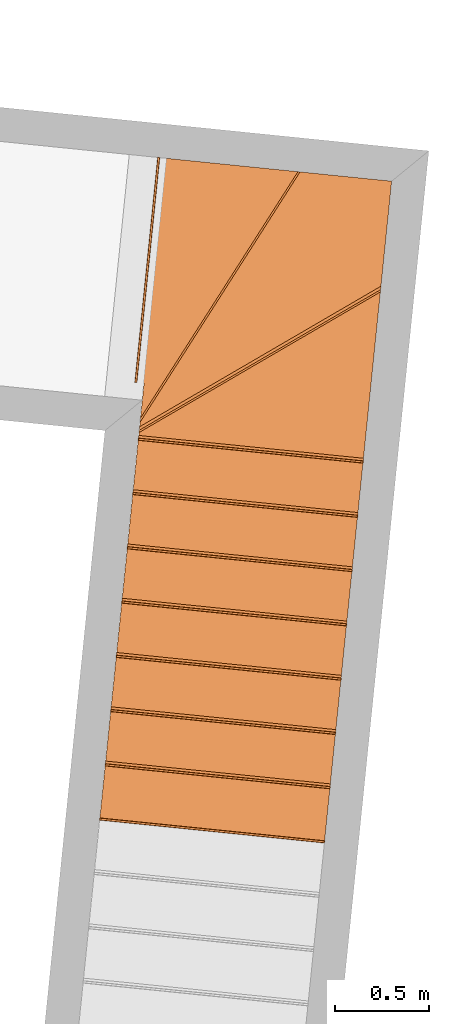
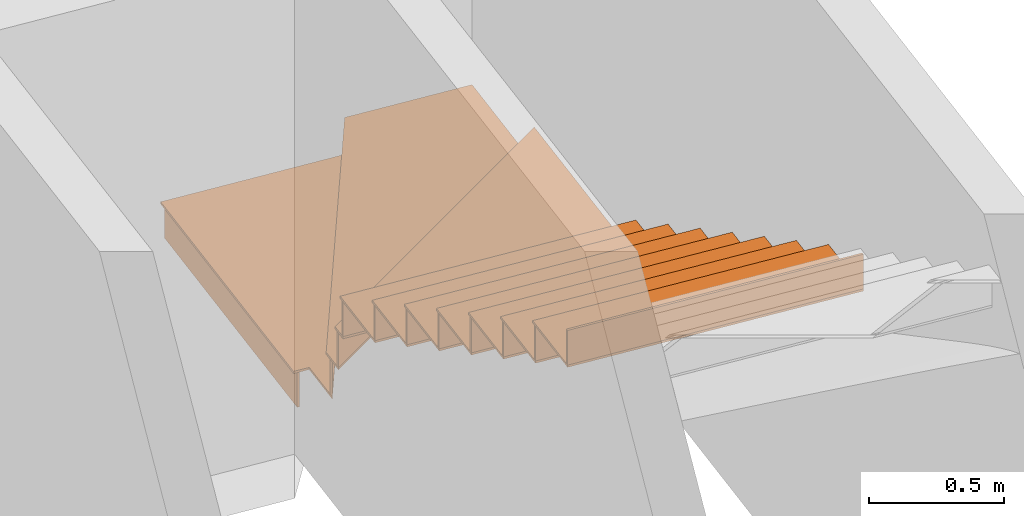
# One storey, part 41 of 41: 21 proxies, 1 element without a shape of its own.
"""IFC2X3 building model written with IfcOpenShell, lengths in millimetres."""

from ifc_helpers import new_model, entity, si_unit, converted_unit, derived_unit, money_unit, direction, frame, origin_with_axes, place, context, subcontext, project, spatial, faceted_brep, material, type_object, element, aggregate, save


model = new_model("IFC2X3")

# Units and contexts
model_context = context("Model", 3, precision=0.01, world=origin_with_axes(), true_north=direction((0.0, 1.0)))
body_context = subcontext(model_context, "Body", "Model", "MODEL_VIEW")
ifc_project = project(units=[si_unit("LENGTHUNIT", "METRE", prefix="MILLI"), si_unit("AREAUNIT", "SQUARE_METRE"), si_unit("VOLUMEUNIT", "CUBIC_METRE"), converted_unit("PLANEANGLEUNIT", "DEGREE", entity("IfcPlaneAngleMeasure", 0.0174532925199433), si_unit("PLANEANGLEUNIT", "RADIAN"), dimensions=[0, 0, 0, 0, 0, 0, 0]), money_unit("USD"), converted_unit("TIMEUNIT", "Year", entity("IfcTimeMeasure", 31557600.0), si_unit("TIMEUNIT", "SECOND"), dimensions=[0, 0, 1, 0, 0, 0, 0]), si_unit("MASSUNIT", "GRAM", prefix="KILO"), si_unit("THERMODYNAMICTEMPERATUREUNIT", "DEGREE_CELSIUS"), si_unit("LUMINOUSINTENSITYUNIT", "LUMEN"), si_unit("ENERGYUNIT", "JOULE", prefix="MEGA"), derived_unit("THERMALCONDUCTANCEUNIT", [(si_unit("POWERUNIT", "WATT"), 1), (si_unit("LENGTHUNIT", "METRE"), -1), (si_unit("THERMODYNAMICTEMPERATUREUNIT", "KELVIN"), -1)]), derived_unit("SPECIFICHEATCAPACITYUNIT", [(si_unit("ENERGYUNIT", "JOULE"), 1), (si_unit("MASSUNIT", "GRAM", prefix="KILO"), -1), (si_unit("THERMODYNAMICTEMPERATUREUNIT", "KELVIN"), -1)]), derived_unit("MASSDENSITYUNIT", [(si_unit("MASSUNIT", "GRAM", prefix="KILO"), 1), (si_unit("VOLUMEUNIT", "CUBIC_METRE"), -1)])], contexts=[model_context])

# Site, building, storey
site_placement = place(None, origin_with_axes())
site = spatial("IfcSite", under=ifc_project, at=site_placement, Name="Site", CompositionType="ELEMENT")
building_placement = place(site_placement, origin_with_axes())
building = spatial("IfcBuilding", under=site, at=building_placement, Name="Bâtiment", CompositionType="ELEMENT")
storey_placement = place(building_placement, origin_with_axes())
storey = spatial("IfcBuildingStorey", under=building, at=storey_placement, Name="sousol", CompositionType="ELEMENT", Elevation=0.0)

# Stair, proxies
stair_placement = place(storey_placement, frame((2249189.521225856, -619471.9295065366, 0.0), z_axis=(0.0, 0.0, 1.0), x_axis=(0.9948759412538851, -0.1011032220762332, 0.0)))
stair = element("IfcStair", 1, at=stair_placement, inside=storey, Name="ESC-014", ShapeType="NOTDEFINED")
ifc_material = material(Name="Lame d'air 275581351")
building_element_proxy_type = type_object("IfcBuildingElementProxyType", Name="IfcBuildingElementProxy", PredefinedType="NOTDEFINED")
proxy_1_placement = place(stair_placement, frame((58.36308295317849, 1254.652024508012, 156.6666666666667), z_axis=(0.0, 0.0, 1.0), x_axis=(0.0, -1.0, 0.0)))
proxy_1 = element("IfcBuildingElementProxy", 2, at=proxy_1_placement, type_object=building_element_proxy_type, material=ifc_material, Name="C-MARCHE-224", context=body_context, shape_type="Brep", body=[
    faceted_brep([(334.9999999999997, 15.00000000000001, 0.0), (334.9999999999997, 25.00000000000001, 0.0), (-865.0000000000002, 24.99999999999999, 0.0), (-865.0000000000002, 14.99999999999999, 0.0), (334.9999999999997, 15.00000000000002, -156.6666666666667), (334.9999999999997, 25.00000000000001, -156.6666666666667), (-865.0000000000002, 25.0, -156.6666666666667), (-865.0000000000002, 15.0, -156.6666666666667)], [[[0, 1, 2, 3]], [[0, 4, 5, 1]], [[1, 5, 6, 2]], [[3, 2, 6, 7]], [[4, 0, 3, 7]], [[5, 4, 7, 6]]]),
])
proxy_2_placement = place(stair_placement, frame((331.3349740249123, 1181.206810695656, 323.3333333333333), z_axis=(0.0, 0.0, 1.0), x_axis=(-0.4505176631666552, -0.8927675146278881, 0.0)))
proxy_2 = element("IfcBuildingElementProxy", 3, at=proxy_2_placement, type_object=building_element_proxy_type, material=ifc_material, Name="C-MARCHE-225", context=body_context, shape_type="Brep", body=[
    faceted_brep([(494.3417207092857, 14.9999999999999, 0.0), (514.1582026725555, 24.9999999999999, 0.0), (-1063.779920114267, 24.99999999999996, 0.0), (-1058.733615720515, 14.99999999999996, 0.0), (494.3417207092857, 14.99999999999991, -156.6666666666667), (514.1582026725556, 24.99999999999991, -156.6666666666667), (-1063.779920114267, 24.99999999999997, -156.6666666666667), (-1058.733615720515, 14.99999999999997, -156.6666666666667)], [[[0, 1, 2, 3]], [[0, 4, 5, 1]], [[1, 5, 6, 2]], [[3, 2, 6, 7]], [[4, 0, 3, 7]], [[5, 4, 7, 6]]]),
])
proxy_3_placement = place(stair_placement, frame((456.8563038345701, 930.0208874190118, 490.0), z_axis=(0.0, 0.0, 1.0), x_axis=(-0.8087987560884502, -0.5880855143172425, 0.0)))
proxy_3 = element("IfcBuildingElementProxy", 4, at=proxy_3_placement, type_object=building_element_proxy_type, material=ifc_material, Name="C-MARCHE-226", context=body_context, shape_type="Brep", body=[
    faceted_brep([(424.9027017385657, 14.99999999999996, 0.0), (432.1737998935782, 24.99999999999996, 0.0), (-1051.50800718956, 24.99999999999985, 0.0), (-1058.779105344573, 14.99999999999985, 0.0), (424.9027017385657, 14.99999999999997, -156.6666666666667), (432.1737998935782, 24.99999999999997, -156.6666666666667), (-1051.50800718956, 24.99999999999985, -156.6666666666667), (-1058.779105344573, 14.99999999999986, -156.6666666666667)], [[[0, 1, 2, 3]], [[0, 4, 5, 1]], [[1, 5, 6, 2]], [[3, 2, 6, 7]], [[4, 0, 3, 7]], [[5, 4, 7, 6]]]),
])
proxy_4_placement = place(stair_placement, frame((457.0168099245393, 640.2725551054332, 656.6666666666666), z_axis=(0.0, 0.0, 1.0), x_axis=(-1.0, 0.0, 0.0)))
proxy_4 = element("IfcBuildingElementProxy", 5, at=proxy_4_placement, type_object=building_element_proxy_type, material=ifc_material, Name="C-MARCHE-227", context=body_context, shape_type="Brep", body=[
    faceted_brep([(334.9999999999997, 15.00000000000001, 0.0), (334.9999999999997, 25.00000000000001, 0.0), (-865.0000000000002, 24.99999999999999, 0.0), (-865.0000000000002, 14.99999999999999, 0.0), (334.9999999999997, 15.00000000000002, -156.6666666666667), (334.9999999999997, 25.00000000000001, -156.6666666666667), (-865.0000000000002, 25.0, -156.6666666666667), (-865.0000000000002, 15.0, -156.6666666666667)], [[[0, 1, 2, 3]], [[0, 4, 5, 1]], [[1, 5, 6, 2]], [[3, 2, 6, 7]], [[4, 0, 3, 7]], [[5, 4, 7, 6]]]),
])
proxy_5_placement = place(stair_placement, frame((457.016809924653, 350.5225664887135, 823.3333333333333), z_axis=(0.0, 0.0, 1.0), x_axis=(-1.0, 0.0, 0.0)))
proxy_5 = element("IfcBuildingElementProxy", 6, at=proxy_5_placement, type_object=building_element_proxy_type, material=ifc_material, Name="C-MARCHE-228", context=body_context, shape_type="Brep", body=[
    faceted_brep([(334.9999999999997, 15.00000000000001, 0.0), (334.9999999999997, 25.00000000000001, 0.0), (-865.0000000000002, 24.99999999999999, 0.0), (-865.0000000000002, 14.99999999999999, 0.0), (334.9999999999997, 15.00000000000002, -156.6666666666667), (334.9999999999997, 25.00000000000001, -156.6666666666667), (-865.0000000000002, 25.0, -156.6666666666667), (-865.0000000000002, 15.0, -156.6666666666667)], [[[0, 1, 2, 3]], [[0, 4, 5, 1]], [[1, 5, 6, 2]], [[3, 2, 6, 7]], [[4, 0, 3, 7]], [[5, 4, 7, 6]]]),
])
proxy_6_placement = place(stair_placement, frame((457.016809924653, 60.77257787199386, 990.0), z_axis=(0.0, 0.0, 1.0), x_axis=(-1.0, 0.0, 0.0)))
proxy_6 = element("IfcBuildingElementProxy", 7, at=proxy_6_placement, type_object=building_element_proxy_type, material=ifc_material, Name="C-MARCHE-229", context=body_context, shape_type="Brep", body=[
    faceted_brep([(334.9999999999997, 15.00000000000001, 0.0), (334.9999999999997, 25.00000000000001, 0.0), (-865.0000000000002, 24.99999999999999, 0.0), (-865.0000000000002, 14.99999999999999, 0.0), (334.9999999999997, 15.00000000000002, -156.6666666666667), (334.9999999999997, 25.00000000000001, -156.6666666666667), (-865.0000000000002, 25.0, -156.6666666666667), (-865.0000000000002, 15.0, -156.6666666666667)], [[[0, 1, 2, 3]], [[0, 4, 5, 1]], [[1, 5, 6, 2]], [[3, 2, 6, 7]], [[4, 0, 3, 7]], [[5, 4, 7, 6]]]),
])
proxy_7_placement = place(stair_placement, frame((457.016809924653, -228.9774107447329, 1156.666666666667), z_axis=(0.0, 0.0, 1.0), x_axis=(-1.0, 0.0, 0.0)))
proxy_7 = element("IfcBuildingElementProxy", 8, at=proxy_7_placement, type_object=building_element_proxy_type, material=ifc_material, Name="C-MARCHE-230", context=body_context, shape_type="Brep", body=[
    faceted_brep([(334.9999999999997, 15.00000000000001, 0.0), (334.9999999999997, 25.00000000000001, 0.0), (-865.0000000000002, 24.99999999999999, 0.0), (-865.0000000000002, 14.99999999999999, 0.0), (334.9999999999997, 15.00000000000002, -156.6666666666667), (334.9999999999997, 25.00000000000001, -156.6666666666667), (-865.0000000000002, 25.0, -156.6666666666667), (-865.0000000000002, 15.0, -156.6666666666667)], [[[0, 1, 2, 3]], [[0, 4, 5, 1]], [[1, 5, 6, 2]], [[3, 2, 6, 7]], [[4, 0, 3, 7]], [[5, 4, 7, 6]]]),
])
proxy_8_placement = place(stair_placement, frame((457.016809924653, -518.7273993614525, 1323.333333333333), z_axis=(0.0, 0.0, 1.0), x_axis=(-1.0, 0.0, 0.0)))
proxy_8 = element("IfcBuildingElementProxy", 9, at=proxy_8_placement, type_object=building_element_proxy_type, material=ifc_material, Name="C-MARCHE-231", context=body_context, shape_type="Brep", body=[
    faceted_brep([(334.9999999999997, 15.00000000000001, 0.0), (334.9999999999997, 25.00000000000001, 0.0), (-865.0000000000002, 24.99999999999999, 0.0), (-865.0000000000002, 14.99999999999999, 0.0), (334.9999999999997, 15.00000000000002, -156.6666666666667), (334.9999999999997, 25.00000000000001, -156.6666666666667), (-865.0000000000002, 25.0, -156.6666666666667), (-865.0000000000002, 15.0, -156.6666666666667)], [[[0, 1, 2, 3]], [[0, 4, 5, 1]], [[1, 5, 6, 2]], [[3, 2, 6, 7]], [[4, 0, 3, 7]], [[5, 4, 7, 6]]]),
])
proxy_9_placement = place(stair_placement, frame((457.016809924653, -808.4773879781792, 1490.0), z_axis=(0.0, 0.0, 1.0), x_axis=(-1.0, 0.0, 0.0)))
proxy_9 = element("IfcBuildingElementProxy", 10, at=proxy_9_placement, type_object=building_element_proxy_type, material=ifc_material, Name="C-MARCHE-232", context=body_context, shape_type="Brep", body=[
    faceted_brep([(334.9999999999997, 15.00000000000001, 0.0), (334.9999999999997, 25.00000000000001, 0.0), (-865.0000000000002, 24.99999999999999, 0.0), (-865.0000000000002, 14.99999999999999, 0.0), (334.9999999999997, 15.00000000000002, -156.6666666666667), (334.9999999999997, 25.00000000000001, -156.6666666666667), (-865.0000000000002, 25.0, -156.6666666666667), (-865.0000000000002, 15.0, -156.6666666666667)], [[[0, 1, 2, 3]], [[0, 4, 5, 1]], [[1, 5, 6, 2]], [[3, 2, 6, 7]], [[4, 0, 3, 7]], [[5, 4, 7, 6]]]),
])
proxy_10_placement = place(stair_placement, frame((457.016809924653, -1098.227376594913, 1656.666666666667), z_axis=(0.0, 0.0, 1.0), x_axis=(-1.0, 0.0, 0.0)))
proxy_10 = element("IfcBuildingElementProxy", 11, at=proxy_10_placement, type_object=building_element_proxy_type, material=ifc_material, Name="C-MARCHE-233", context=body_context, shape_type="Brep", body=[
    faceted_brep([(334.9999999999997, 15.00000000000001, 0.0), (334.9999999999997, 25.00000000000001, 0.0), (-865.0000000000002, 24.99999999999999, 0.0), (-865.0000000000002, 14.99999999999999, 0.0), (334.9999999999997, 15.00000000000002, -156.6666666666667), (334.9999999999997, 25.00000000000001, -156.6666666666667), (-865.0000000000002, 25.0, -156.6666666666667), (-865.0000000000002, 15.0, -156.6666666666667)], [[[0, 1, 2, 3]], [[0, 4, 5, 1]], [[1, 5, 6, 2]], [[3, 2, 6, 7]], [[4, 0, 3, 7]], [[5, 4, 7, 6]]]),
])
proxy_11_placement = place(stair_placement, frame((457.016809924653, -1387.977365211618, 1823.333333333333), z_axis=(0.0, 0.0, 1.0), x_axis=(-1.0, 0.0, 0.0)))
proxy_11 = element("IfcBuildingElementProxy", 12, at=proxy_11_placement, type_object=building_element_proxy_type, material=ifc_material, Name="C-MARCHE-234", context=body_context, shape_type="Brep", body=[
    faceted_brep([(334.9999999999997, 15.00000000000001, 0.0), (334.9999999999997, 25.00000000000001, 0.0), (-865.0000000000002, 24.99999999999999, 0.0), (-865.0000000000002, 14.99999999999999, 0.0), (334.9999999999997, 15.00000000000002, -156.6666666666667), (334.9999999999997, 25.00000000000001, -156.6666666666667), (-865.0000000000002, 25.0, -156.6666666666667), (-865.0000000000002, 15.0, -156.6666666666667)], [[[0, 1, 2, 3]], [[0, 4, 5, 1]], [[1, 5, 6, 2]], [[3, 2, 6, 7]], [[4, 0, 3, 7]], [[5, 4, 7, 6]]]),
])
proxy_12_placement = place(stair_placement, frame((58.36308295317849, 1254.652024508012, 166.6666666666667), z_axis=(0.0, 0.0, 1.0), x_axis=(0.0, -1.0, 0.0)))
proxy_12 = element("IfcBuildingElementProxy", 13, at=proxy_12_placement, type_object=building_element_proxy_type, material=ifc_material, Name="MARCHE-224", context=body_context, shape_type="Brep", body=[
    faceted_brep([(-865.0000000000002, 0.0, -10.0), (334.9999999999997, 0.0, -10.0), (334.9999999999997, 0.0, 0.0), (-865.0000000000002, 0.0, 0.0), (-865.0000000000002, 774.5427318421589, -10.0), (543.7319034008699, 63.65372697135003, -10.0), (334.9999999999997, 63.65372697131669, -10.0), (334.9999999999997, 63.65372697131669, 0.0), (543.7319034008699, 63.65372697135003, 0.0), (-865.0000000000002, 774.5427318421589, 0.0)], [[[0, 1, 2, 3]], [[0, 4, 5, 6, 1]], [[1, 6, 7, 2]], [[3, 2, 7, 8, 9]], [[4, 0, 3, 9]], [[5, 4, 9, 8]], [[6, 5, 8, 7]]]),
])
proxy_13_placement = place(stair_placement, frame((331.3349740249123, 1181.206810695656, 333.3333333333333), z_axis=(0.0, 0.0, 1.0), x_axis=(-0.4505176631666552, -0.8927675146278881, 0.0)))
proxy_13 = element("IfcBuildingElementProxy", 14, at=proxy_13_placement, type_object=building_element_proxy_type, material=ifc_material, Name="MARCHE-225", context=body_context, shape_type="Brep", body=[
    faceted_brep([(-1051.164159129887, 0.0, -10.0), (464.6169977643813, 0.0, -10.0), (464.6169977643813, 0.0, 0.0), (-1051.164159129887, 0.0, 0.0), (-1284.133066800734, 461.6624156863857, -10.0), (-756.0838736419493, 728.1321120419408, -10.0), (563.5053567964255, 49.90207606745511, -10.0), (563.5053567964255, 49.90207606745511, 0.0), (-756.0838736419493, 728.1321120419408, 0.0), (-1284.133066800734, 461.6624156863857, 0.0)], [[[0, 1, 2, 3]], [[0, 4, 5, 6, 1]], [[1, 6, 7, 2]], [[3, 2, 7, 8, 9]], [[4, 0, 3, 9]], [[5, 4, 9, 8]], [[6, 5, 8, 7]]]),
])
proxy_14_placement = place(stair_placement, frame((456.8563038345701, 930.0208874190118, 500.0), z_axis=(0.0, 0.0, 1.0), x_axis=(-0.8087987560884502, -0.5880855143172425, 0.0)))
proxy_14 = element("IfcBuildingElementProxy", 15, at=proxy_14_placement, type_object=building_element_proxy_type, material=ifc_material, Name="MARCHE-226", context=body_context, shape_type="Brep", body=[
    faceted_brep([(-1069.685752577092, 0.0, -10.0), (413.996054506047, 0.0, -10.0), (413.996054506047, 0.0, 0.0), (-1069.685752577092, 0.0, 0.0), (-514.641806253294, 763.3564208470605, -10.0), (455.9167010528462, 57.65380366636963, -10.0), (455.9167010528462, 57.65380366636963, 0.0), (-514.641806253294, 763.3564208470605, 0.0)], [[[0, 1, 2, 3]], [[0, 4, 5, 1]], [[1, 5, 6, 2]], [[3, 2, 6, 7]], [[4, 0, 3, 7]], [[5, 4, 7, 6]]]),
])
proxy_15_placement = place(stair_placement, frame((457.0168099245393, 640.2725551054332, 666.6666666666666), z_axis=(0.0, 0.0, 1.0), x_axis=(-1.0, 0.0, 0.0)))
proxy_15 = element("IfcBuildingElementProxy", 16, at=proxy_15_placement, type_object=building_element_proxy_type, material=ifc_material, Name="MARCHE-227", context=body_context, shape_type="Brep", body=[
    faceted_brep([(-865.0, 0.0, -10.0), (334.9999999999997, 0.0, -10.0), (334.9999999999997, 0.0, 0.0), (-865.0, 0.0, 0.0), (-865.0000000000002, 314.7499886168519, -10.0), (334.9999999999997, 314.7499886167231, -10.0), (334.9999999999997, 314.7499886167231, 0.0), (-865.0000000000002, 314.7499886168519, 0.0)], [[[0, 1, 2, 3]], [[0, 4, 5, 1]], [[1, 5, 6, 2]], [[3, 2, 6, 7]], [[4, 0, 3, 7]], [[5, 4, 7, 6]]]),
])
proxy_16_placement = place(stair_placement, frame((457.016809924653, 350.5225664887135, 833.3333333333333), z_axis=(0.0, 0.0, 1.0), x_axis=(-1.0, 0.0, 0.0)))
proxy_16 = element("IfcBuildingElementProxy", 17, at=proxy_16_placement, type_object=building_element_proxy_type, material=ifc_material, Name="MARCHE-228", context=body_context, shape_type="Brep", body=[
    faceted_brep([(-865.0, 0.0, -10.0), (334.9999999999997, 0.0, -10.0), (334.9999999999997, 0.0, 0.0), (-865.0, 0.0, 0.0), (-865.0000000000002, 314.7499886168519, -10.0), (334.9999999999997, 314.7499886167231, -10.0), (334.9999999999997, 314.7499886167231, 0.0), (-865.0000000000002, 314.7499886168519, 0.0)], [[[0, 1, 2, 3]], [[0, 4, 5, 1]], [[1, 5, 6, 2]], [[3, 2, 6, 7]], [[4, 0, 3, 7]], [[5, 4, 7, 6]]]),
])
proxy_17_placement = place(stair_placement, frame((457.016809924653, 60.77257787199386, 1000.0), z_axis=(0.0, 0.0, 1.0), x_axis=(-1.0, 0.0, 0.0)))
proxy_17 = element("IfcBuildingElementProxy", 18, at=proxy_17_placement, type_object=building_element_proxy_type, material=ifc_material, Name="MARCHE-229", context=body_context, shape_type="Brep", body=[
    faceted_brep([(-865.0000000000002, 0.0, -10.0), (334.9999999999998, 0.0, -10.0), (334.9999999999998, 0.0, 0.0), (-865.0000000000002, 0.0, 0.0), (-865.0000000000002, 195.1211469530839, -10.0), (-864.9999999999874, 314.7499886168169, -10.0), (335.0000000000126, 314.7499886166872, -10.0), (334.9999999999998, 195.1211469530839, -10.0), (334.9999999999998, 195.1211469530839, 0.0), (335.0000000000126, 314.7499886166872, 0.0), (-864.9999999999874, 314.7499886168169, 0.0), (-865.0000000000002, 195.1211469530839, 0.0)], [[[0, 1, 2, 3]], [[0, 4, 5, 6, 7, 1]], [[1, 7, 8, 2]], [[3, 2, 8, 9, 10, 11]], [[4, 0, 3, 11]], [[5, 4, 11, 10]], [[6, 5, 10, 9]], [[7, 6, 9, 8]]]),
])
proxy_18_placement = place(stair_placement, frame((457.016809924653, -518.7273993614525, 1333.333333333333), z_axis=(0.0, 0.0, 1.0), x_axis=(-1.0, 0.0, 0.0)))
proxy_18 = element("IfcBuildingElementProxy", 19, at=proxy_18_placement, type_object=building_element_proxy_type, material=ifc_material, Name="MARCHE-231", context=body_context, shape_type="Brep", body=[
    faceted_brep([(-865.0, 0.0, -10.0), (334.9999999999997, 0.0, -10.0), (334.9999999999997, 0.0, 0.0), (-865.0, 0.0, 0.0), (-865.0000000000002, 314.7499886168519, -10.0), (334.9999999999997, 314.7499886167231, -10.0), (334.9999999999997, 314.7499886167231, 0.0), (-865.0000000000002, 314.7499886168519, 0.0)], [[[0, 1, 2, 3]], [[0, 4, 5, 1]], [[1, 5, 6, 2]], [[3, 2, 6, 7]], [[4, 0, 3, 7]], [[5, 4, 7, 6]]]),
])
proxy_19_placement = place(stair_placement, frame((457.016809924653, -228.9774107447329, 1166.666666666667), z_axis=(0.0, 0.0, 1.0), x_axis=(-1.0, 0.0, 0.0)))
proxy_19 = element("IfcBuildingElementProxy", 20, at=proxy_19_placement, type_object=building_element_proxy_type, material=ifc_material, Name="MARCHE-230", context=body_context, shape_type="Brep", body=[
    faceted_brep([(-865.0, 0.0, -10.0), (334.9999999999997, 0.0, -10.0), (334.9999999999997, 0.0, 0.0), (-865.0, 0.0, 0.0), (-865.0000000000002, 314.7499886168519, -10.0), (334.9999999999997, 314.7499886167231, -10.0), (334.9999999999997, 314.7499886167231, 0.0), (-865.0000000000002, 314.7499886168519, 0.0)], [[[0, 1, 2, 3]], [[0, 4, 5, 1]], [[1, 5, 6, 2]], [[3, 2, 6, 7]], [[4, 0, 3, 7]], [[5, 4, 7, 6]]]),
])
proxy_20_placement = place(stair_placement, frame((457.016809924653, -808.4773879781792, 1500.0), z_axis=(0.0, 0.0, 1.0), x_axis=(-1.0, 0.0, 0.0)))
proxy_20 = element("IfcBuildingElementProxy", 21, at=proxy_20_placement, type_object=building_element_proxy_type, material=ifc_material, Name="MARCHE-232", context=body_context, shape_type="Brep", body=[
    faceted_brep([(-865.0, 0.0, -10.0), (334.9999999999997, 0.0, -10.0), (334.9999999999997, 0.0, 0.0), (-865.0, 0.0, 0.0), (-865.0000000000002, 314.7499886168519, -10.0), (334.9999999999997, 314.7499886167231, -10.0), (334.9999999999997, 314.7499886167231, 0.0), (-865.0000000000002, 314.7499886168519, 0.0)], [[[0, 1, 2, 3]], [[0, 4, 5, 1]], [[1, 5, 6, 2]], [[3, 2, 6, 7]], [[4, 0, 3, 7]], [[5, 4, 7, 6]]]),
])
proxy_21_placement = place(stair_placement, frame((457.016809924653, -1098.227376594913, 1666.666666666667), z_axis=(0.0, 0.0, 1.0), x_axis=(-1.0, 0.0, 0.0)))
proxy_21 = element("IfcBuildingElementProxy", 22, at=proxy_21_placement, type_object=building_element_proxy_type, material=ifc_material, Name="MARCHE-233", context=body_context, shape_type="Brep", body=[
    faceted_brep([(-865.0, 0.0, -10.0), (334.9999999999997, 0.0, -10.0), (334.9999999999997, 0.0, 0.0), (-865.0, 0.0, 0.0), (-865.0000000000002, 314.7499886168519, -10.0), (334.9999999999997, 314.7499886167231, -10.0), (334.9999999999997, 314.7499886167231, 0.0), (-865.0000000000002, 314.7499886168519, 0.0)], [[[0, 1, 2, 3]], [[0, 4, 5, 1]], [[1, 5, 6, 2]], [[3, 2, 6, 7]], [[4, 0, 3, 7]], [[5, 4, 7, 6]]]),
])
aggregate(stair, [proxy_1, proxy_2, proxy_3, proxy_4, proxy_5, proxy_6, proxy_7, proxy_8, proxy_9, proxy_10, proxy_11, proxy_12, proxy_13, proxy_14, proxy_15, proxy_16, proxy_17, proxy_18, proxy_19, proxy_20, proxy_21])

save(model, "model.ifc")
